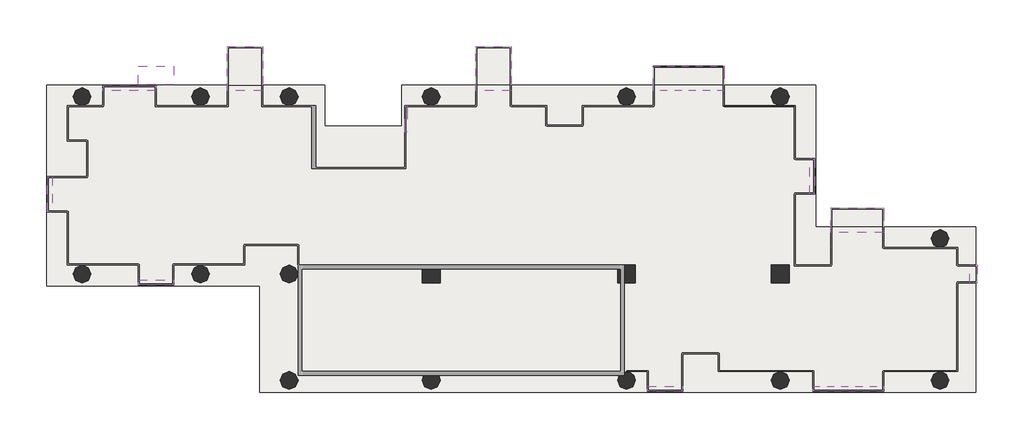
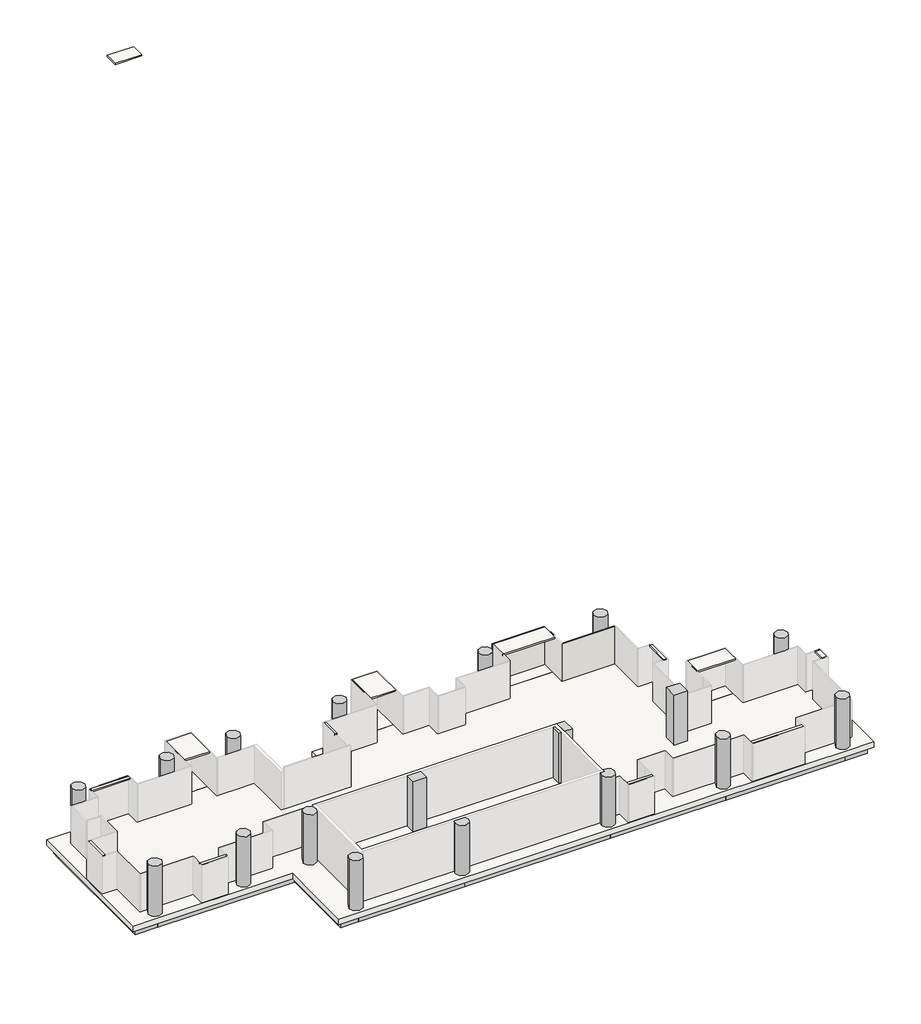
# One storey, part 2 of 2: 40 slabs, 25 beams, 18 columns, 2 walls.
"""IFC4 building model written with IfcOpenShell, lengths in millimetres."""

from ifc_helpers import new_model, si_unit, point, frame, frame_2d, origin, place, context, project, spatial, polyline, circle_curve, trimmed, segment, composite_curve, outline, extrude, faceted_brep, transform, mapped, element, save
from ifc_brep_helpers import plane_surface, cylinder_surface, advanced_brep
from components import ajn_arc_ossature_rec_ba_700x600_5242ffbb, ajn_arc_ossature_rec_ba_700x600_213c05e2, ajn_arc_ossature_rec_ba_700x600_4d623bda, ajn_arc_ossature_rec_ba_700x600_c2a8f1af, ajn_arc_ossature_rec_ba_700x600_b2f97811, ajn_arc_ossature_rec_ba_700x600_e688680c, ajn_arc_ossature_rec_ba_700x600_8adee879, ajn_arc_ossature_rec_ba_700x600_6677e51c, ajn_arc_ossature_rec_ba_700x600_60e35d56, ajn_arc_ossature_rec_ba_700x600_9ae0f913, ajn_arc_ossature_rec_ba_700x600_5c14351b, ajn_arc_ossature_rec_ba_700x600_e883967f, ajn_arc_ossature_rec_ba_700x600_0984b03c, ajn_arc_ossature_rec_ba_700x600_78f846f2, ajn_arc_ossature_rec_ba_700x600_e869caa8, ajn_arc_ossature_rec_ba_700x600_ab13cff5, ajn_arc_ossature_rec_ba_700x600_cb3e513f, ajn_arc_ossature_rec_ba_700x600_0388eb48, ajn_arc_ossature_rec_ba_700x600_e143517c

model = new_model("IFC4")

# Units and contexts
model_context = context("Model", 3, world=origin())
ifc_project = project(units=[si_unit("LENGTHUNIT", "METRE", prefix="MILLI")], contexts=[model_context])

# Site, building, storey
site = spatial("IfcSite", under=ifc_project)
building = spatial("IfcBuilding", under=site)
storey = spatial("IfcBuildingStorey", under=building, Name="TW-L 03", Elevation=9999.9999686)

# Beams
placement = place(None, origin())
ajn_arc_ossature_rec_ba_700x600_shape = ajn_arc_ossature_rec_ba_700x600_5242ffbb(model_context)
element("IfcBeam", 1, ObjectType="AJN-ARC-OSSATURE REC-BA : 700x600", at=placement, inside=storey, context=model_context, shape_type="MappedRepresentation", body=[
    mapped(ajn_arc_ossature_rec_ba_700x600_shape, transform((119350.0, 39300.0, 9449.9999686), x_axis=(-1.0, 0.0, 0.0), y_axis=(0.0, -1.0, 0.0), z_axis=(0.0, 0.0, 1.0))),
])
ajn_arc_ossature_rec_ba_700x600_2_shape = ajn_arc_ossature_rec_ba_700x600_213c05e2(model_context)
element("IfcBeam", 2, ObjectType="AJN-ARC-OSSATURE REC-BA : 700x600", at=placement, inside=storey, context=model_context, shape_type="MappedRepresentation", body=[
    mapped(ajn_arc_ossature_rec_ba_700x600_2_shape, transform((100900.0, 34800.0, 9449.9999686), x_axis=(0.0, -1.0, 0.0), y_axis=(1.0, 0.0, 0.0), z_axis=(0.0, 0.0, 1.0))),
])
ajn_arc_ossature_rec_ba_700x600_3_shape = ajn_arc_ossature_rec_ba_700x600_4d623bda(model_context)
element("IfcBeam", 3, ObjectType="AJN-ARC-OSSATURE REC-BA : 700x600", at=placement, inside=storey, context=model_context, shape_type="MappedRepresentation", body=[
    mapped(ajn_arc_ossature_rec_ba_700x600_3_shape, transform((112150.0, 24900.0, 9449.9999686), x_axis=(1.0, 0.0, 0.0), y_axis=(0.0, 1.0, 0.0), z_axis=(0.0, 0.0, 1.0))),
])
ajn_arc_ossature_rec_ba_700x600_4_shape = ajn_arc_ossature_rec_ba_700x600_c2a8f1af(model_context)
element("IfcBeam", 4, ObjectType="AJN-ARC-OSSATURE REC-BA : 700x600", at=placement, inside=storey, context=model_context, shape_type="MappedRepresentation", body=[
    mapped(ajn_arc_ossature_rec_ba_700x600_4_shape, transform((116200.0, 24900.0, 9449.9999686), x_axis=(1.0, 0.0, 0.0), y_axis=(0.0, 1.0, 0.0), z_axis=(0.0, 0.0, 1.0))),
])
ajn_arc_ossature_rec_ba_700x600_5_shape = ajn_arc_ossature_rec_ba_700x600_b2f97811(model_context)
element("IfcBeam", 5, ObjectType="AJN-ARC-OSSATURE REC-BA : 700x600", at=placement, inside=storey, context=model_context, shape_type="MappedRepresentation", body=[
    mapped(ajn_arc_ossature_rec_ba_700x600_5_shape, transform((106900.0, 30300.0, 9449.9999686), x_axis=(1.0, 0.0, 0.0), y_axis=(0.0, 1.0, 0.0), z_axis=(0.0, 0.0, 1.0))),
])
ajn_arc_ossature_rec_ba_700x600_6_shape = ajn_arc_ossature_rec_ba_700x600_e688680c(model_context)
element("IfcBeam", 6, ObjectType="AJN-ARC-OSSATURE REC-BA : 700x600", at=placement, inside=storey, context=model_context, shape_type="MappedRepresentation", body=[
    mapped(ajn_arc_ossature_rec_ba_700x600_6_shape, transform((111700.0, 27600.0, 9449.9999686), x_axis=(0.0, -1.0, 0.0), y_axis=(1.0, 0.0, 0.0), z_axis=(0.0, 0.0, 1.0))),
])
ajn_arc_ossature_rec_ba_700x600_7_shape = ajn_arc_ossature_rec_ba_700x600_8adee879(model_context)
element("IfcBeam", 7, ObjectType="AJN-ARC-OSSATURE REC-BA : 700x600", at=placement, inside=storey, context=model_context, shape_type="MappedRepresentation", body=[
    mapped(ajn_arc_ossature_rec_ba_700x600_7_shape, transform((124750.0, 24900.0, 9449.9999686), x_axis=(1.0, 0.0, 0.0), y_axis=(0.0, 1.0, 0.0), z_axis=(0.0, 0.0, 1.0))),
])
element("IfcBeam", 8, ObjectType="AJN-ARC-OSSATURE REC-BA : 700x600", at=placement, inside=storey, context=model_context, shape_type="MappedRepresentation", body=[
    mapped(ajn_arc_ossature_rec_ba_700x600_7_shape, transform((124750.0, 39300.0, 9449.9999686), x_axis=(-1.0, 0.0, 0.0), y_axis=(0.0, -1.0, 0.0), z_axis=(0.0, 0.0, 1.0))),
])
ajn_arc_ossature_rec_ba_700x600_8_shape = ajn_arc_ossature_rec_ba_700x600_6677e51c(model_context)
element("IfcBeam", 9, ObjectType="AJN-ARC-OSSATURE REC-BA : 700x600", at=placement, inside=storey, context=model_context, shape_type="MappedRepresentation", body=[
    mapped(ajn_arc_ossature_rec_ba_700x600_8_shape, transform((133600.0, 24900.0, 9449.9999686), x_axis=(1.0, 0.0, 0.0), y_axis=(0.0, 1.0, 0.0), z_axis=(0.0, 0.0, 1.0))),
])
ajn_arc_ossature_rec_ba_700x600_9_shape = ajn_arc_ossature_rec_ba_700x600_60e35d56(model_context)
element("IfcBeam", 10, ObjectType="AJN-ARC-OSSATURE REC-BA : 700x600", at=placement, inside=storey, context=model_context, shape_type="MappedRepresentation", body=[
    mapped(ajn_arc_ossature_rec_ba_700x600_9_shape, transform((141550.0, 24900.0, 9449.9999686), x_axis=(1.0, 0.0, 0.0), y_axis=(0.0, 1.0, 0.0), z_axis=(0.0, 0.0, 1.0))),
])
ajn_arc_ossature_rec_ba_700x600_10_shape = ajn_arc_ossature_rec_ba_700x600_9ae0f913(model_context)
element("IfcBeam", 11, ObjectType="AJN-ARC-OSSATURE REC-BA : 700x600", at=placement, inside=storey, context=model_context, shape_type="MappedRepresentation", body=[
    mapped(ajn_arc_ossature_rec_ba_700x600_10_shape, transform((146200.0, 24900.0, 9449.9999686), x_axis=(1.0, 0.0, 0.0), y_axis=(0.0, 1.0, 0.0), z_axis=(0.0, 0.0, 1.0))),
])
element("IfcBeam", 12, ObjectType="AJN-ARC-OSSATURE REC-BA : 700x600", at=placement, inside=storey, context=model_context, shape_type="MappedRepresentation", body=[
    mapped(ajn_arc_ossature_rec_ba_700x600_10_shape, transform((101500.0, 39300.0, 9449.9999686), x_axis=(-1.0, 0.0, 0.0), y_axis=(0.0, -1.0, 0.0), z_axis=(0.0, 0.0, 1.0))),
])
ajn_arc_ossature_rec_ba_700x600_11_shape = ajn_arc_ossature_rec_ba_700x600_5c14351b(model_context)
element("IfcBeam", 13, ObjectType="AJN-ARC-OSSATURE REC-BA : 700x600", at=placement, inside=storey, context=model_context, shape_type="MappedRepresentation", body=[
    mapped(ajn_arc_ossature_rec_ba_700x600_11_shape, transform((146800.0, 28500.0, 9449.9999686), x_axis=(0.0, 1.0, 0.0), y_axis=(-1.0, 0.0, 0.0), z_axis=(0.0, 0.0, 1.0))),
])
element("IfcBeam", 14, ObjectType="AJN-ARC-OSSATURE REC-BA : 700x600", at=placement, inside=storey, context=model_context, shape_type="MappedRepresentation", body=[
    mapped(ajn_arc_ossature_rec_ba_700x600_11_shape, transform((138700.0, 35700.0, 9449.9999686), x_axis=(0.0, 1.0, 0.0), y_axis=(-1.0, 0.0, 0.0), z_axis=(0.0, 0.0, 1.0))),
])
ajn_arc_ossature_rec_ba_700x600_12_shape = ajn_arc_ossature_rec_ba_700x600_e883967f(model_context)
element("IfcBeam", 15, ObjectType="AJN-ARC-OSSATURE REC-BA : 700x600", at=placement, inside=storey, context=model_context, shape_type="MappedRepresentation", body=[
    mapped(ajn_arc_ossature_rec_ba_700x600_12_shape, transform((146200.0, 32100.0, 9449.9999686), x_axis=(-1.0, 0.0, 0.0), y_axis=(0.0, -1.0, 0.0), z_axis=(0.0, 0.0, 1.0))),
])
element("IfcBeam", 16, ObjectType="AJN-ARC-OSSATURE REC-BA : 700x600", at=placement, inside=storey, context=model_context, shape_type="MappedRepresentation", body=[
    mapped(ajn_arc_ossature_rec_ba_700x600_12_shape, transform((138100.0, 39300.0, 9449.9999686), x_axis=(-1.0, 0.0, 0.0), y_axis=(0.0, -1.0, 0.0), z_axis=(0.0, 0.0, 1.0))),
])
element("IfcBeam", 17, ObjectType="AJN-ARC-OSSATURE REC-BA : 700x600", at=placement, inside=storey, context=model_context, shape_type="MappedRepresentation", body=[
    mapped(ajn_arc_ossature_rec_ba_700x600_12_shape, transform((113200.0, 39300.0, 9449.9999686), x_axis=(-1.0, 0.0, 0.0), y_axis=(0.0, -1.0, 0.0), z_axis=(0.0, 0.0, 1.0))),
])
element("IfcBeam", 18, ObjectType="AJN-ARC-OSSATURE REC-BA : 700x600", at=placement, inside=storey, context=model_context, shape_type="MappedRepresentation", body=[
    mapped(ajn_arc_ossature_rec_ba_700x600_12_shape, transform((101500.0, 30300.0, 9449.9999686), x_axis=(1.0, 0.0, 0.0), y_axis=(0.0, 1.0, 0.0), z_axis=(0.0, 0.0, 1.0))),
])
ajn_arc_ossature_rec_ba_700x600_13_shape = ajn_arc_ossature_rec_ba_700x600_0984b03c(model_context)
element("IfcBeam", 19, ObjectType="AJN-ARC-OSSATURE REC-BA : 700x600", at=placement, inside=storey, context=model_context, shape_type="MappedRepresentation", body=[
    mapped(ajn_arc_ossature_rec_ba_700x600_13_shape, transform((142150.0, 32100.0, 9449.9999686), x_axis=(-1.0, 0.0, 0.0), y_axis=(0.0, -1.0, 0.0), z_axis=(0.0, 0.0, 1.0))),
])
ajn_arc_ossature_rec_ba_700x600_14_shape = ajn_arc_ossature_rec_ba_700x600_78f846f2(model_context)
element("IfcBeam", 20, ObjectType="AJN-ARC-OSSATURE REC-BA : 700x600", at=placement, inside=storey, context=model_context, shape_type="MappedRepresentation", body=[
    mapped(ajn_arc_ossature_rec_ba_700x600_14_shape, transform((133600.0, 39300.0, 9449.9999686), x_axis=(-1.0, 0.0, 0.0), y_axis=(0.0, -1.0, 0.0), z_axis=(0.0, 0.0, 1.0))),
])
ajn_arc_ossature_rec_ba_700x600_15_shape = ajn_arc_ossature_rec_ba_700x600_e869caa8(model_context)
element("IfcBeam", 21, ObjectType="AJN-ARC-OSSATURE REC-BA : 700x600", at=placement, inside=storey, context=model_context, shape_type="MappedRepresentation", body=[
    mapped(ajn_arc_ossature_rec_ba_700x600_15_shape, transform((118900.0, 38250.0, 9449.9999686), x_axis=(0.0, -1.0, 0.0), y_axis=(1.0, 0.0, 0.0), z_axis=(0.0, 0.0, 1.0))),
])
ajn_arc_ossature_rec_ba_700x600_16_shape = ajn_arc_ossature_rec_ba_700x600_ab13cff5(model_context)
element("IfcBeam", 22, ObjectType="AJN-ARC-OSSATURE REC-BA : 700x600", at=placement, inside=storey, context=model_context, shape_type="MappedRepresentation", body=[
    mapped(ajn_arc_ossature_rec_ba_700x600_16_shape, transform((116350.0, 37200.0, 9449.9999686), x_axis=(-1.0, 0.0, 0.0), y_axis=(0.0, -1.0, 0.0), z_axis=(0.0, 0.0, 1.0))),
])
ajn_arc_ossature_rec_ba_700x600_17_shape = ajn_arc_ossature_rec_ba_700x600_cb3e513f(model_context)
element("IfcBeam", 23, ObjectType="AJN-ARC-OSSATURE REC-BA : 700x600", at=placement, inside=storey, context=model_context, shape_type="MappedRepresentation", body=[
    mapped(ajn_arc_ossature_rec_ba_700x600_17_shape, transform((113800.0, 38250.0, 9449.9999686), x_axis=(0.0, 1.0, 0.0), y_axis=(-1.0, 0.0, 0.0), z_axis=(0.0, 0.0, 1.0))),
])
ajn_arc_ossature_rec_ba_700x600_18_shape = ajn_arc_ossature_rec_ba_700x600_0388eb48(model_context)
element("IfcBeam", 24, ObjectType="AJN-ARC-OSSATURE REC-BA : 700x600", at=placement, inside=storey, context=model_context, shape_type="MappedRepresentation", body=[
    mapped(ajn_arc_ossature_rec_ba_700x600_18_shape, transform((110350.0, 39300.0, 9449.9999686), x_axis=(-1.0, 0.0, 0.0), y_axis=(0.0, -1.0, 0.0), z_axis=(0.0, 0.0, 1.0))),
])
ajn_arc_ossature_rec_ba_700x600_19_shape = ajn_arc_ossature_rec_ba_700x600_e143517c(model_context)
element("IfcBeam", 25, ObjectType="AJN-ARC-OSSATURE REC-BA : 700x600", at=placement, inside=storey, context=model_context, shape_type="MappedRepresentation", body=[
    mapped(ajn_arc_ossature_rec_ba_700x600_19_shape, transform((105100.0, 39300.0, 9449.9999686), x_axis=(-1.0, 0.0, 0.0), y_axis=(0.0, -1.0, 0.0), z_axis=(0.0, 0.0, 1.0))),
])

# Columns
element("IfcColumn", 26, ObjectType="AJN-ARC-POTEAU CIRCULAIRE : ø90", at=placement, inside=storey, context=model_context, shape_type="SweptSolid", body=[
    extrude(outline(composite_curve([segment(trimmed(circle_curve(frame_2d((102100.0, 39300.0)), 450.0), [point((101650.0, 39300.0))], [point((102550.0, 39300.0))], False, "CARTESIAN"), True, "CONTINUOUS"), segment(trimmed(circle_curve(frame_2d((102100.0, 39300.0)), 450.0), [point((102550.0, 39300.0))], [point((101650.0, 39300.0))], False, "CARTESIAN"), True, "CONTINUOUS")], self_intersect=False)), frame((0.0, 0.0, 9999.9999686), z_axis=(0.0, 0.0, 1.0), x_axis=(1.0, 0.0, 0.0)), (0.0, 0.0, 1.0), 3600.0),
])
element("IfcColumn", 27, ObjectType="AJN-ARC-POTEAU CIRCULAIRE : ø90", at=placement, inside=storey, context=model_context, shape_type="SweptSolid", body=[
    extrude(outline(composite_curve([segment(trimmed(circle_curve(frame_2d((102100.0, 30300.0)), 450.0), [point((101650.0, 30300.0))], [point((102550.0, 30300.0))], False, "CARTESIAN"), True, "CONTINUOUS"), segment(trimmed(circle_curve(frame_2d((102100.0, 30300.0)), 450.0), [point((102550.0, 30300.0))], [point((101650.0, 30300.0))], False, "CARTESIAN"), True, "CONTINUOUS")], self_intersect=False)), frame((0.0, 0.0, 9999.9999686), z_axis=(0.0, 0.0, 1.0), x_axis=(1.0, 0.0, 0.0)), (0.0, 0.0, 1.0), 3600.0),
])
element("IfcColumn", 28, ObjectType="AJN-ARC-POTEAU CIRCULAIRE : ø90", at=placement, inside=storey, context=model_context, shape_type="SweptSolid", body=[
    extrude(outline(composite_curve([segment(trimmed(circle_curve(frame_2d((108100.0, 30300.0)), 450.0), [point((107650.0, 30300.0))], [point((108550.0, 30300.0))], False, "CARTESIAN"), True, "CONTINUOUS"), segment(trimmed(circle_curve(frame_2d((108100.0, 30300.0)), 450.0), [point((108550.0, 30300.0))], [point((107650.0, 30300.0))], False, "CARTESIAN"), True, "CONTINUOUS")], self_intersect=False)), frame((0.0, 0.0, 9999.9999686), z_axis=(0.0, 0.0, 1.0), x_axis=(1.0, 0.0, 0.0)), (0.0, 0.0, 1.0), 3600.0),
])
element("IfcColumn", 29, ObjectType="AJN-ARC-POTEAU CIRCULAIRE : ø90", at=placement, inside=storey, context=model_context, shape_type="SweptSolid", body=[
    extrude(outline(composite_curve([segment(trimmed(circle_curve(frame_2d((108100.0, 39300.0)), 450.0), [point((107650.0, 39300.0))], [point((108550.0, 39300.0))], False, "CARTESIAN"), True, "CONTINUOUS"), segment(trimmed(circle_curve(frame_2d((108100.0, 39300.0)), 450.0), [point((108550.0, 39300.0))], [point((107650.0, 39300.0))], False, "CARTESIAN"), True, "CONTINUOUS")], self_intersect=False)), frame((0.0, 0.0, 9999.9999686), z_axis=(0.0, 0.0, 1.0), x_axis=(1.0, 0.0, 0.0)), (0.0, 0.0, 1.0), 3600.0),
])
element("IfcColumn", 30, ObjectType="AJN-ARC-POTEAU CIRCULAIRE : ø90", at=placement, inside=storey, context=model_context, shape_type="SweptSolid", body=[
    extrude(outline(composite_curve([segment(trimmed(circle_curve(frame_2d((112600.0, 39300.0)), 450.0), [point((112150.0, 39300.0))], [point((113050.0, 39300.0))], False, "CARTESIAN"), True, "CONTINUOUS"), segment(trimmed(circle_curve(frame_2d((112600.0, 39300.0)), 450.0), [point((113050.0, 39300.0))], [point((112150.0, 39300.0))], False, "CARTESIAN"), True, "CONTINUOUS")], self_intersect=False)), frame((0.0, 0.0, 9999.9999686), z_axis=(0.0, 0.0, 1.0), x_axis=(1.0, 0.0, 0.0)), (0.0, 0.0, 1.0), 3600.0),
])
element("IfcColumn", 31, ObjectType="AJN-ARC-POTEAU CIRCULAIRE : ø90", at=placement, inside=storey, context=model_context, shape_type="SweptSolid", body=[
    extrude(outline(composite_curve([segment(trimmed(circle_curve(frame_2d((112600.0, 30300.0)), 450.0), [point((112150.0, 30300.0))], [point((113050.0, 30300.0))], False, "CARTESIAN"), True, "CONTINUOUS"), segment(trimmed(circle_curve(frame_2d((112600.0, 30300.0)), 450.0), [point((113050.0, 30300.0))], [point((112150.0, 30300.0))], False, "CARTESIAN"), True, "CONTINUOUS")], self_intersect=False)), frame((0.0, 0.0, 9999.9999686), z_axis=(0.0, 0.0, 1.0), x_axis=(1.0, 0.0, 0.0)), (0.0, 0.0, 1.0), 3600.0),
])
element("IfcColumn", 32, ObjectType="AJN-ARC-POTEAU CIRCULAIRE : ø90", at=placement, inside=storey, context=model_context, shape_type="SweptSolid", body=[
    extrude(outline(composite_curve([segment(trimmed(circle_curve(frame_2d((112600.0, 24900.0)), 450.0), [point((112150.0, 24900.0))], [point((113050.0, 24900.0))], False, "CARTESIAN"), True, "CONTINUOUS"), segment(trimmed(circle_curve(frame_2d((112600.0, 24900.0)), 450.0), [point((113050.0, 24900.0))], [point((112150.0, 24900.0))], False, "CARTESIAN"), True, "CONTINUOUS")], self_intersect=False)), frame((0.0, 0.0, 9999.9999686), z_axis=(0.0, 0.0, 1.0), x_axis=(1.0, 0.0, 0.0)), (0.0, 0.0, 1.0), 3600.0),
])
element("IfcColumn", 33, ObjectType="AJN-ARC-POTEAU CIRCULAIRE : ø90", at=placement, inside=storey, context=model_context, shape_type="SweptSolid", body=[
    extrude(outline(composite_curve([segment(trimmed(circle_curve(frame_2d((119800.0, 24900.0)), 450.0), [point((120250.0, 24900.0))], [point((119350.0, 24900.0))], False, "CARTESIAN"), True, "CONTINUOUS"), segment(trimmed(circle_curve(frame_2d((119800.0, 24900.0)), 450.0), [point((119350.0, 24900.0))], [point((119425.8342613, 25150.0))], False, "CARTESIAN"), True, "CONTINUOUS"), segment(polyline([(119425.8342613, 25150.0), (120174.1657387, 25150.0)]), True, "CONTINUOUS"), segment(trimmed(circle_curve(frame_2d((119800.0, 24900.0)), 450.0), [point((120174.1657387, 25150.0))], [point((120250.0, 24900.0))], False, "CARTESIAN"), True, "CONTINUOUS")], self_intersect=False)), frame((0.0, 0.0, 9999.9999686), z_axis=(0.0, 0.0, 1.0), x_axis=(1.0, 0.0, 0.0)), (0.0, 0.0, 1.0), 3600.0),
])
element("IfcColumn", 34, ObjectType="AJN-ARC-POTEAU CIRCULAIRE : ø90", at=placement, inside=storey, context=model_context, shape_type="SweptSolid", body=[
    extrude(outline(composite_curve([segment(trimmed(circle_curve(frame_2d((119800.0, 39300.0)), 450.0), [point((119350.0, 39300.0))], [point((120250.0, 39300.0))], False, "CARTESIAN"), True, "CONTINUOUS"), segment(trimmed(circle_curve(frame_2d((119800.0, 39300.0)), 450.0), [point((120250.0, 39300.0))], [point((119350.0, 39300.0))], False, "CARTESIAN"), True, "CONTINUOUS")], self_intersect=False)), frame((0.0, 0.0, 9999.9999686), z_axis=(0.0, 0.0, 1.0), x_axis=(1.0, 0.0, 0.0)), (0.0, 0.0, 1.0), 3600.0),
])
element("IfcColumn", 35, ObjectType="AJN-ARC-POTEAU CIRCULAIRE : ø90", at=placement, inside=storey, context=model_context, shape_type="SweptSolid", body=[
    extrude(outline(composite_curve([segment(trimmed(circle_curve(frame_2d((129700.0, 39300.0)), 450.0), [point((129250.0, 39300.0))], [point((130150.0, 39300.0))], False, "CARTESIAN"), True, "CONTINUOUS"), segment(trimmed(circle_curve(frame_2d((129700.0, 39300.0)), 450.0), [point((130150.0, 39300.0))], [point((129250.0, 39300.0))], False, "CARTESIAN"), True, "CONTINUOUS")], self_intersect=False)), frame((0.0, 0.0, 9999.9999686), z_axis=(0.0, 0.0, 1.0), x_axis=(1.0, 0.0, 0.0)), (0.0, 0.0, 1.0), 3600.0),
])
element("IfcColumn", 36, ObjectType="AJN-ARC-POTEAU CIRCULAIRE : ø90", at=placement, inside=storey, context=model_context, shape_type="SweptSolid", body=[
    extrude(outline(composite_curve([segment(trimmed(circle_curve(frame_2d((129700.0, 24900.0)), 450.0), [point((130150.0, 24900.0))], [point((129250.0, 24900.0))], False, "CARTESIAN"), True, "CONTINUOUS"), segment(trimmed(circle_curve(frame_2d((129700.0, 24900.0)), 450.0), [point((129250.0, 24900.0))], [point((129325.8342613, 25150.0))], False, "CARTESIAN"), True, "CONTINUOUS"), segment(polyline([(129325.8342613, 25150.0), (129600.0, 25150.0), (129600.0, 25338.7482194)]), True, "CONTINUOUS"), segment(trimmed(circle_curve(frame_2d((129700.0, 24900.0)), 450.0), [point((129600.0, 25338.7482194))], [point((130150.0, 24900.0))], False, "CARTESIAN"), True, "CONTINUOUS")], self_intersect=False)), frame((0.0, 0.0, 9999.9999686), z_axis=(0.0, 0.0, 1.0), x_axis=(1.0, 0.0, 0.0)), (0.0, 0.0, 1.0), 3600.0),
])
element("IfcColumn", 37, ObjectType="AJN-ARC-POTEAU CIRCULAIRE : ø90", at=placement, inside=storey, context=model_context, shape_type="SweptSolid", body=[
    extrude(outline(composite_curve([segment(trimmed(circle_curve(frame_2d((137500.0, 39300.0)), 450.0), [point((137050.0, 39300.0))], [point((137950.0, 39300.0))], False, "CARTESIAN"), True, "CONTINUOUS"), segment(trimmed(circle_curve(frame_2d((137500.0, 39300.0)), 450.0), [point((137950.0, 39300.0))], [point((137050.0, 39300.0))], False, "CARTESIAN"), True, "CONTINUOUS")], self_intersect=False)), frame((0.0, 0.0, 9999.9999686), z_axis=(0.0, 0.0, 1.0), x_axis=(1.0, 0.0, 0.0)), (0.0, 0.0, 1.0), 3600.0),
])
element("IfcColumn", 38, ObjectType="AJN-ARC-POTEAU CIRCULAIRE : ø90", at=placement, inside=storey, context=model_context, shape_type="SweptSolid", body=[
    extrude(outline(composite_curve([segment(trimmed(circle_curve(frame_2d((137500.0, 24900.0)), 450.0), [point((137050.0, 24900.0))], [point((137950.0, 24900.0))], False, "CARTESIAN"), True, "CONTINUOUS"), segment(trimmed(circle_curve(frame_2d((137500.0, 24900.0)), 450.0), [point((137950.0, 24900.0))], [point((137050.0, 24900.0))], False, "CARTESIAN"), True, "CONTINUOUS")], self_intersect=False)), frame((0.0, 0.0, 9999.9999686), z_axis=(0.0, 0.0, 1.0), x_axis=(1.0, 0.0, 0.0)), (0.0, 0.0, 1.0), 3600.0),
])
element("IfcColumn", 39, ObjectType="AJN-ARC-POTEAU CIRCULAIRE : ø90", at=placement, inside=storey, context=model_context, shape_type="SweptSolid", body=[
    extrude(outline(composite_curve([segment(trimmed(circle_curve(frame_2d((145600.0, 24900.0)), 450.0), [point((145150.0, 24900.0))], [point((146050.0, 24900.0))], False, "CARTESIAN"), True, "CONTINUOUS"), segment(trimmed(circle_curve(frame_2d((145600.0, 24900.0)), 450.0), [point((146050.0, 24900.0))], [point((145150.0, 24900.0))], False, "CARTESIAN"), True, "CONTINUOUS")], self_intersect=False)), frame((0.0, 0.0, 9999.9999686), z_axis=(0.0, 0.0, 1.0), x_axis=(1.0, 0.0, 0.0)), (0.0, 0.0, 1.0), 3600.0),
])
element("IfcColumn", 40, ObjectType="AJN-ARC-POTEAU CIRCULAIRE : ø90", at=placement, inside=storey, context=model_context, shape_type="AdvancedBrep", body=[
    advanced_brep(
    [(145150.0, 32100.0, 9999.9999686), (146050.0, 32100.0, 9999.9999686), (145638.6089983, 31651.6593424, 9999.9999686), (145561.3910017, 31651.6593424, 9999.9999686), (145150.0, 32100.0, 13599.9999686), (146050.0, 32100.0, 13599.9999686), (145561.3910017, 31651.6593424, 12699.9999686), (145638.6089983, 31651.6593424, 12699.9999686)],
    [
        (0, 1, circle_curve(frame((145600.0, 32100.0, 9999.9999686), z_axis=(0.0, 0.0, -1.0), x_axis=(1.0, 0.0, 0.0)), 450.0)),
        (1, 2, circle_curve(frame((145600.0, 32100.0, 9999.9999686), z_axis=(0.0, 0.0, -1.0), x_axis=(1.0, 0.0, 0.0)), 450.0)),
        (2, 3),
        (3, 0, circle_curve(frame((145600.0, 32100.0, 9999.9999686), z_axis=(0.0, 0.0, -1.0), x_axis=(1.0, 0.0, 0.0)), 450.0)),
        (0, 4),
        (4, 5, circle_curve(frame((145600.0, 32100.0, 13599.9999686), z_axis=(0.0, 0.0, -1.0), x_axis=(1.0, 0.0, 0.0)), 450.0)),
        (5, 1),
        (5, 4, circle_curve(frame((145600.0, 32100.0, 13599.9999686), z_axis=(0.0, 0.0, -1.0), x_axis=(1.0, 0.0, 0.0)), 450.0)),
        (3, 6),
        (6, 7, circle_curve(frame((145600.0, 32100.0, 12699.9999686), z_axis=(0.0, 0.0, 1.0), x_axis=(1.0, 0.0, 0.0)), 450.0)),
        (7, 2),
        (7, 6),
    ],
    [
        plane_surface(frame((146050.0, 32100.0, 9999.9999686), z_axis=(0.0, 0.0, -1.0), x_axis=(0.0, -1.0, 0.0))),
        cylinder_surface(frame((145600.0, 32100.0, 9999.9999686), z_axis=(0.0, 0.0, 1.0), x_axis=(1.0, 0.0, 0.0)), 450.0),
        plane_surface(frame((146050.0, 32100.0, 13599.9999686), z_axis=(0.0, 0.0, 1.0), x_axis=(0.0, 1.0, 0.0))),
        plane_surface(frame((146472.681474, 31651.6593424, 9999.9999686), z_axis=(0.0, -1.0, 0.0), x_axis=(-1.0, 0.0, 0.0))),
        plane_surface(frame((142750.0, 31651.6593424, 12699.9999686), z_axis=(0.0, 0.0, -1.0), x_axis=(0.0, -1.0, 0.0))),
    ],
    [
        (0, [[1, 2, 3, 4]]),
        (1, [[-1, 5, 6, 7]]),
        (1, [[-7, 8, -5, -4, 9, 10, 11, -2]]),
        (2, [[-6, -8]]),
        (3, [[12, -9, -3, -11]]),
        (4, [[-12, -10]]),
    ],
),
])
element("IfcColumn", 41, ObjectType="AJN-ARC-POTEAU RECTANGULAIRE : 900 mm x 900 mm", at=placement, inside=storey, context=model_context, shape_type="SweptSolid", body=[
    extrude(outline(polyline([(137950.0, 30750.0), (137950.0, 29850.0), (137050.0, 29850.0), (137050.0, 30750.0), (137950.0, 30750.0)])), frame((0.0, 0.0, 9999.9999686), z_axis=(0.0, 0.0, 1.0), x_axis=(1.0, 0.0, 0.0)), (0.0, 0.0, 1.0), 3600.0),
])
element("IfcColumn", 42, ObjectType="AJN-ARC-POTEAU RECTANGULAIRE : 900 mm x 900 mm", at=placement, inside=storey, context=model_context, shape_type="SweptSolid", body=[
    extrude(outline(polyline([(129400.0, 29850.0), (129250.0, 29850.0), (129250.0, 30550.0), (129400.0, 30550.0), (129400.0, 29850.0)])), frame((0.0, 0.0, 9999.9999686), z_axis=(0.0, 0.0, 1.0), x_axis=(1.0, 0.0, 0.0)), (0.0, 0.0, 1.0), 3600.0),
    extrude(outline(polyline([(130150.0, 30750.0), (130150.0, 29850.0), (129600.0, 29850.0), (129600.0, 30750.0), (130150.0, 30750.0)])), frame((0.0, 0.0, 9999.9999686), z_axis=(0.0, 0.0, 1.0), x_axis=(1.0, 0.0, 0.0)), (0.0, 0.0, 1.0), 3600.0),
])
element("IfcColumn", 43, ObjectType="AJN-ARC-POTEAU RECTANGULAIRE : 900 mm x 900 mm", at=placement, inside=storey, context=model_context, shape_type="SweptSolid", body=[
    extrude(outline(polyline([(120250.0, 29850.0), (119350.0, 29850.0), (119350.0, 30550.0), (120250.0, 30550.0), (120250.0, 29850.0)])), frame((0.0, 0.0, 9999.9999686), z_axis=(0.0, 0.0, 1.0), x_axis=(1.0, 0.0, 0.0)), (0.0, 0.0, 1.0), 3600.0),
])

# Slabs
element("IfcSlab", 44, ObjectType="AJN-ARC-SLAB-10cm", at=placement, inside=storey, context=model_context, shape_type="SweptSolid", body=[
    extrude(outline(polyline([(123862.058986, 39900.0), (122062.058986, 39900.0), (122062.058986, 41850.0), (123862.058986, 41850.0), (123862.058986, 39900.0)])), frame((0.0, 0.0, 9899.9999686), z_axis=(0.0, 0.0, 1.0), x_axis=(1.0, 0.0, 0.0)), (0.0, 0.0, 1.0), 100.0),
])
element("IfcSlab", 45, ObjectType="AJN-ARC-SLAB-10cm", at=placement, inside=storey, context=model_context, shape_type="SweptSolid", body=[
    extrude(outline(polyline([(147497.681474, 29851.8314633), (147400.0, 29851.8314633), (147400.0, 30751.8314633), (147497.681474, 30751.8314633), (147497.681474, 29851.8314633)])), frame((0.0, 0.0, 9899.9999686), z_axis=(0.0, 0.0, 1.0), x_axis=(1.0, 0.0, 0.0)), (0.0, 0.0, 1.0), 100.0),
])
element("IfcSlab", 46, ObjectType="AJN-ARC-SLAB-10cm", at=placement, inside=storey, context=model_context, shape_type="SweptSolid", body=[
    extrude(outline(polyline([(111250.0, 39900.0), (109450.0, 39900.0), (109450.0, 41850.0), (111250.0, 41850.0), (111250.0, 39900.0)])), frame((0.0, 0.0, 9899.9999686), z_axis=(0.0, 0.0, 1.0), x_axis=(1.0, 0.0, 0.0)), (0.0, 0.0, 1.0), 100.0),
])
element("IfcSlab", 47, ObjectType="AJN-ARC-SLAB-10cm", at=placement, inside=storey, context=model_context, shape_type="SweptSolid", body=[
    extrude(outline(polyline([(142750.0, 32700.0), (140050.0, 32700.0), (140050.0, 33651.6593424), (142750.0, 33651.6593424), (142750.0, 32700.0)])), frame((0.0, 0.0, 9899.9999686), z_axis=(0.0, 0.0, 1.0), x_axis=(1.0, 0.0, 0.0)), (0.0, 0.0, 1.0), 100.0),
])
element("IfcSlab", 48, ObjectType="AJN-ARC-SLAB-10cm", at=placement, inside=storey, context=model_context, shape_type="SweptSolid", body=[
    extrude(outline(polyline([(134658.039324, 39900.0), (131058.039324, 39900.0), (131058.039324, 40850.0), (134658.039324, 40850.0), (134658.039324, 39900.0)])), frame((0.0, 0.0, 9899.9999686), z_axis=(0.0, 0.0, 1.0), x_axis=(1.0, 0.0, 0.0)), (0.0, 0.0, 1.0), 100.0),
])
element("IfcSlab", 49, ObjectType="AJN-ARC-SLAB-10cm", at=placement, inside=storey, context=model_context, shape_type="SweptSolid", body=[
    extrude(outline(polyline([(134658.039324, 39900.0), (131058.039324, 39900.0), (131058.039324, 40850.0), (134658.039324, 40850.0), (134658.039324, 39900.0)])), frame((0.0, 0.0, 9899.9999686), z_axis=(0.0, 0.0, 1.0), x_axis=(1.0, 0.0, 0.0)), (0.0, 0.0, 1.0), 100.0),
])
element("IfcSlab", 50, ObjectType="AJN-ARC-SLAB-10cm", at=placement, inside=storey, context=model_context, shape_type="SweptSolid", body=[
    extrude(outline(polyline([(134658.039324, 39900.0), (131058.039324, 39900.0), (131058.039324, 40850.0), (134658.039324, 40850.0), (134658.039324, 39900.0)])), frame((0.0, 0.0, 9899.9999686), z_axis=(0.0, 0.0, 1.0), x_axis=(1.0, 0.0, 0.0)), (0.0, 0.0, 1.0), 100.0),
])
element("IfcSlab", 51, ObjectType="AJN-ARC-SLAB-10cm", at=placement, inside=storey, context=model_context, shape_type="SweptSolid", body=[
    extrude(outline(polyline([(134658.039324, 39900.0), (131058.039324, 39900.0), (131058.039324, 40850.0), (134658.039324, 40850.0), (134658.039324, 39900.0)])), frame((0.0, 0.0, 9899.9999686), z_axis=(0.0, 0.0, 1.0), x_axis=(1.0, 0.0, 0.0)), (0.0, 0.0, 1.0), 100.0),
])
element("IfcSlab", 52, ObjectType="AJN-ARC-SLAB-10cm", at=placement, inside=storey, context=model_context, shape_type="SweptSolid", body=[
    extrude(outline(polyline([(134658.039324, 39900.0), (131058.039324, 39900.0), (131058.039324, 40850.0), (134658.039324, 40850.0), (134658.039324, 39900.0)])), frame((0.0, 0.0, 9899.9999686), z_axis=(0.0, 0.0, 1.0), x_axis=(1.0, 0.0, 0.0)), (0.0, 0.0, 1.0), 100.0),
])
element("IfcSlab", 53, ObjectType="AJN-ARC-SLAB-10cm", at=placement, inside=storey, context=model_context, shape_type="SweptSolid", body=[
    extrude(outline(polyline([(134658.039324, 39900.0), (131058.039324, 39900.0), (131058.039324, 40850.0), (134658.039324, 40850.0), (134658.039324, 39900.0)])), frame((0.0, 0.0, 9899.9999686), z_axis=(0.0, 0.0, 1.0), x_axis=(1.0, 0.0, 0.0)), (0.0, 0.0, 1.0), 100.0),
])
element("IfcSlab", 54, ObjectType="AJN-ARC-SLAB-10cm", at=placement, inside=storey, context=model_context, shape_type="SweptSolid", body=[
    extrude(outline(polyline([(134658.039324, 39900.0), (131058.039324, 39900.0), (131058.039324, 40850.0), (134658.039324, 40850.0), (134658.039324, 39900.0)])), frame((0.0, 0.0, 9899.9999686), z_axis=(0.0, 0.0, 1.0), x_axis=(1.0, 0.0, 0.0)), (0.0, 0.0, 1.0), 100.0),
])
element("IfcSlab", 55, ObjectType="AJN-ARC-SLAB-10cm", at=placement, inside=storey, context=model_context, shape_type="SweptSolid", body=[
    extrude(outline(polyline([(134658.039324, 39900.0), (131058.039324, 39900.0), (131058.039324, 40850.0), (134658.039324, 40850.0), (134658.039324, 39900.0)])), frame((0.0, 0.0, 9899.9999686), z_axis=(0.0, 0.0, 1.0), x_axis=(1.0, 0.0, 0.0)), (0.0, 0.0, 1.0), 100.0),
])
element("IfcSlab", 56, ObjectType="AJN-ARC-SLAB-10cm", at=placement, inside=storey, context=model_context, shape_type="SweptSolid", body=[
    extrude(outline(polyline([(134658.039324, 39900.0), (131058.039324, 39900.0), (131058.039324, 40850.0), (134658.039324, 40850.0), (134658.039324, 39900.0)])), frame((0.0, 0.0, 9899.9999686), z_axis=(0.0, 0.0, 1.0), x_axis=(1.0, 0.0, 0.0)), (0.0, 0.0, 1.0), 100.0),
])
element("IfcSlab", 57, ObjectType="AJN-ARC-SLAB-10cm", at=placement, inside=storey, context=model_context, shape_type="SweptSolid", body=[
    extrude(outline(polyline([(134658.039324, 39900.0), (131058.039324, 39900.0), (131058.039324, 40850.0), (134658.039324, 40850.0), (134658.039324, 39900.0)])), frame((0.0, 0.0, 9899.9999686), z_axis=(0.0, 0.0, 1.0), x_axis=(1.0, 0.0, 0.0)), (0.0, 0.0, 1.0), 100.0),
])
element("IfcSlab", 58, ObjectType="AJN-ARC-SLAB-10cm", at=placement, inside=storey, context=model_context, shape_type="SweptSolid", body=[
    extrude(outline(polyline([(134658.039324, 39900.0), (131058.039324, 39900.0), (131058.039324, 40850.0), (134658.039324, 40850.0), (134658.039324, 39900.0)])), frame((0.0, 0.0, 9899.9999686), z_axis=(0.0, 0.0, 1.0), x_axis=(1.0, 0.0, 0.0)), (0.0, 0.0, 1.0), 100.0),
])
element("IfcSlab", 59, ObjectType="AJN-ARC-SLAB-10cm", at=placement, inside=storey, context=model_context, shape_type="SweptSolid", body=[
    extrude(outline(polyline([(134658.039324, 39900.0), (131058.039324, 39900.0), (131058.039324, 40850.0), (134658.039324, 40850.0), (134658.039324, 39900.0)])), frame((0.0, 0.0, 9899.9999686), z_axis=(0.0, 0.0, 1.0), x_axis=(1.0, 0.0, 0.0)), (0.0, 0.0, 1.0), 100.0),
])
element("IfcSlab", 60, ObjectType="AJN-ARC-SLAB-10cm", at=placement, inside=storey, context=model_context, shape_type="SweptSolid", body=[
    extrude(outline(polyline([(134658.039324, 39900.0), (131058.039324, 39900.0), (131058.039324, 40850.0), (134658.039324, 40850.0), (134658.039324, 39900.0)])), frame((0.0, 0.0, 9899.9999686), z_axis=(0.0, 0.0, 1.0), x_axis=(1.0, 0.0, 0.0)), (0.0, 0.0, 1.0), 100.0),
])
element("IfcSlab", 61, ObjectType="AJN-ARC-SLAB-10cm", at=placement, inside=storey, context=model_context, shape_type="SweptSolid", body=[
    extrude(outline(polyline([(134658.039324, 39900.0), (131058.039324, 39900.0), (131058.039324, 40850.0), (134658.039324, 40850.0), (134658.039324, 39900.0)])), frame((0.0, 0.0, 9899.9999686), z_axis=(0.0, 0.0, 1.0), x_axis=(1.0, 0.0, 0.0)), (0.0, 0.0, 1.0), 100.0),
])
element("IfcSlab", 62, ObjectType="AJN-ARC-SLAB-10cm", at=placement, inside=storey, context=model_context, shape_type="SweptSolid", body=[
    extrude(outline(polyline([(134658.039324, 39900.0), (131058.039324, 39900.0), (131058.039324, 40850.0), (134658.039324, 40850.0), (134658.039324, 39900.0)])), frame((0.0, 0.0, 9899.9999686), z_axis=(0.0, 0.0, 1.0), x_axis=(1.0, 0.0, 0.0)), (0.0, 0.0, 1.0), 100.0),
])
element("IfcSlab", 63, ObjectType="AJN-ARC-SLAB-10cm", at=placement, inside=storey, context=model_context, shape_type="SweptSolid", body=[
    extrude(outline(polyline([(106747.1743518, 29750.0), (104947.1743518, 29750.0), (104947.1743518, 30000.0), (106747.1743518, 30000.0), (106747.1743518, 29750.0)])), frame((0.0, 0.0, 12599.9999686), z_axis=(0.0, 0.0, 1.0), x_axis=(1.0, 0.0, 0.0)), (0.0, 0.0, 1.0), 100.0),
])
element("IfcSlab", 64, ObjectType="AJN-ARC-SLAB-10cm", at=placement, inside=storey, context=model_context, shape_type="SweptSolid", body=[
    extrude(outline(polyline([(105850.0, 39600.0), (103150.0, 39600.0), (103150.0, 39850.0), (105850.0, 39850.0), (105850.0, 39600.0)])), frame((0.0, 0.0, 12599.9999686), z_axis=(0.0, 0.0, 1.0), x_axis=(1.0, 0.0, 0.0)), (0.0, 0.0, 1.0), 100.0),
])
element("IfcSlab", 65, ObjectType="AJN-ARC-SLAB-10cm", at=placement, inside=storey, context=model_context, shape_type="SweptSolid", body=[
    extrude(outline(polyline([(111250.0, 39600.0), (109450.0, 39600.0), (109450.0, 41850.0), (111250.0, 41850.0), (111250.0, 39600.0)])), frame((0.0, 0.0, 12599.9999686), z_axis=(0.0, 0.0, 1.0), x_axis=(1.0, 0.0, 0.0)), (0.0, 0.0, 1.0), 100.0),
])
element("IfcSlab", 66, ObjectType="AJN-ARC-SLAB-10cm", at=placement, inside=storey, context=model_context, shape_type="SweptSolid", body=[
    extrude(outline(polyline([(118600.0, 37500.0), (118450.0, 37500.0), (118450.0, 38850.0), (118600.0, 38850.0), (118600.0, 37500.0)])), frame((0.0, 0.0, 12599.9999686), z_axis=(0.0, 0.0, 1.0), x_axis=(1.0, 0.0, 0.0)), (0.0, 0.0, 1.0), 100.0),
])
element("IfcSlab", 67, ObjectType="AJN-ARC-SLAB-10cm", at=placement, inside=storey, context=model_context, shape_type="SweptSolid", body=[
    extrude(outline(polyline([(132550.3745887, 24350.0), (130750.3745887, 24350.0), (130750.3745887, 24600.0), (132550.3745887, 24600.0), (132550.3745887, 24350.0)])), frame((0.0, 0.0, 12599.9999686), z_axis=(0.0, 0.0, 1.0), x_axis=(1.0, 0.0, 0.0)), (0.0, 0.0, 1.0), 100.0),
])
element("IfcSlab", 68, ObjectType="AJN-ARC-SLAB-10cm", at=placement, inside=storey, context=model_context, shape_type="SweptSolid", body=[
    extrude(outline(polyline([(100600.0, 33449.4054443), (100348.1792673, 33449.4054443), (100348.1792673, 35249.4054443), (100600.0, 35249.4054443), (100600.0, 33449.4054443)])), frame((0.0, 0.0, 12599.9999686), z_axis=(0.0, 0.0, 1.0), x_axis=(1.0, 0.0, 0.0)), (0.0, 0.0, 1.0), 100.0),
])
element("IfcSlab", 69, ObjectType="AJN-ARC-SLAB-10cm", at=placement, inside=storey, context=model_context, shape_type="SweptSolid", body=[
    extrude(outline(polyline([(142750.0, 32400.0), (140050.0, 32400.0), (140050.0, 33651.6593424), (142750.0, 33651.6593424), (142750.0, 32400.0)])), frame((0.0, 0.0, 12599.9999686), z_axis=(0.0, 0.0, 1.0), x_axis=(1.0, 0.0, 0.0)), (0.0, 0.0, 1.0), 100.0),
])
element("IfcSlab", 70, ObjectType="AJN-ARC-SLAB-10cm", at=placement, inside=storey, context=model_context, shape_type="SweptSolid", body=[
    extrude(outline(polyline([(147497.681474, 29851.8314633), (147100.0, 29851.8314633), (147100.0, 30751.8314633), (147497.681474, 30751.8314633), (147497.681474, 29851.8314633)])), frame((0.0, 0.0, 12599.9999686), z_axis=(0.0, 0.0, 1.0), x_axis=(1.0, 0.0, 0.0)), (0.0, 0.0, 1.0), 100.0),
])
element("IfcSlab", 71, ObjectType="AJN-ARC-SLAB-10cm", at=placement, inside=storey, context=model_context, shape_type="SweptSolid", body=[
    extrude(outline(polyline([(139250.0, 34350.0), (139000.0, 34350.0), (139000.0, 36150.0), (139250.0, 36150.0), (139250.0, 34350.0)])), frame((0.0, 0.0, 12599.9999686), z_axis=(0.0, 0.0, 1.0), x_axis=(1.0, 0.0, 0.0)), (0.0, 0.0, 1.0), 100.0),
])
element("IfcSlab", 72, ObjectType="AJN-ARC-SLAB-10cm", at=placement, inside=storey, context=model_context, shape_type="SweptSolid", body=[
    extrude(outline(polyline([(123862.058986, 39600.0), (122062.058986, 39600.0), (122062.058986, 41850.0), (123862.058986, 41850.0), (123862.058986, 39600.0)])), frame((0.0, 0.0, 12599.9999686), z_axis=(0.0, 0.0, 1.0), x_axis=(1.0, 0.0, 0.0)), (0.0, 0.0, 1.0), 100.0),
])
element("IfcSlab", 73, ObjectType="AJN-ARC-SLAB-10cm", at=placement, inside=storey, context=model_context, shape_type="SweptSolid", body=[
    extrude(outline(polyline([(142750.0957207, 24350.0), (139150.0957207, 24350.0), (139150.0957207, 24600.0), (142750.0957207, 24600.0), (142750.0957207, 24350.0)])), frame((0.0, 0.0, 12599.9999686), z_axis=(0.0, 0.0, 1.0), x_axis=(1.0, 0.0, 0.0)), (0.0, 0.0, 1.0), 100.0),
])
element("IfcSlab", 74, ObjectType="AJN-ARC-SLAB-10cm", at=placement, inside=storey, context=model_context, shape_type="SweptSolid", body=[
    extrude(outline(polyline([(134658.039324, 39600.0), (131058.039324, 39600.0), (131058.039324, 40850.0), (134658.039324, 40850.0), (134658.039324, 39600.0)])), frame((0.0, 0.0, 12599.9999686), z_axis=(0.0, 0.0, 1.0), x_axis=(1.0, 0.0, 0.0)), (0.0, 0.0, 1.0), 100.0),
])
element("IfcSlab", 75, ObjectType="AJN-ARC-SLAB-10cm", at=placement, inside=storey, context=model_context, shape_type="SweptSolid", body=[
    extrude(outline(polyline([(134658.039324, 39600.0), (131058.039324, 39600.0), (131058.039324, 40850.0), (134658.039324, 40850.0), (134658.039324, 39600.0)])), frame((0.0, 0.0, 12599.9999686), z_axis=(0.0, 0.0, 1.0), x_axis=(1.0, 0.0, 0.0)), (0.0, 0.0, 1.0), 100.0),
])
element("IfcSlab", 76, ObjectType="AJN-ARC-SLAB-10cm", at=placement, inside=storey, context=model_context, shape_type="SweptSolid", body=[
    extrude(outline(polyline([(134658.039324, 39600.0), (131058.039324, 39600.0), (131058.039324, 40850.0), (134658.039324, 40850.0), (134658.039324, 39600.0)])), frame((0.0, 0.0, 12599.9999686), z_axis=(0.0, 0.0, 1.0), x_axis=(1.0, 0.0, 0.0)), (0.0, 0.0, 1.0), 100.0),
])
element("IfcSlab", 77, ObjectType="AJN-ARC-SLAB-10cm", at=placement, inside=storey, context=model_context, shape_type="SweptSolid", body=[
    extrude(outline(polyline([(134658.039324, 39600.0), (131058.039324, 39600.0), (131058.039324, 40850.0), (134658.039324, 40850.0), (134658.039324, 39600.0)])), frame((0.0, 0.0, 12599.9999686), z_axis=(0.0, 0.0, 1.0), x_axis=(1.0, 0.0, 0.0)), (0.0, 0.0, 1.0), 100.0),
])
element("IfcSlab", 78, ObjectType="AJN-ARC-SLAB-10cm", at=placement, inside=storey, context=model_context, shape_type="SweptSolid", body=[
    extrude(outline(polyline([(134658.039324, 39600.0), (131058.039324, 39600.0), (131058.039324, 40850.0), (134658.039324, 40850.0), (134658.039324, 39600.0)])), frame((0.0, 0.0, 12599.9999686), z_axis=(0.0, 0.0, 1.0), x_axis=(1.0, 0.0, 0.0)), (0.0, 0.0, 1.0), 100.0),
])
element("IfcSlab", 79, ObjectType="AJN-ARC-SLAB-10cm", at=placement, inside=storey, context=model_context, shape_type="SweptSolid", body=[
    extrude(outline(polyline([(134658.039324, 39600.0), (131058.039324, 39600.0), (131058.039324, 40850.0), (134658.039324, 40850.0), (134658.039324, 39600.0)])), frame((0.0, 0.0, 12599.9999686), z_axis=(0.0, 0.0, 1.0), x_axis=(1.0, 0.0, 0.0)), (0.0, 0.0, 1.0), 100.0),
])
element("IfcSlab", 80, ObjectType="AJN-ARC-SLAB-10cm", at=placement, inside=storey, context=model_context, shape_type="SweptSolid", body=[
    extrude(outline(polyline([(134658.039324, 39600.0), (131058.039324, 39600.0), (131058.039324, 40850.0), (134658.039324, 40850.0), (134658.039324, 39600.0)])), frame((0.0, 0.0, 12599.9999686), z_axis=(0.0, 0.0, 1.0), x_axis=(1.0, 0.0, 0.0)), (0.0, 0.0, 1.0), 100.0),
])
element("IfcSlab", 81, ObjectType="AJN-ARC-SLAB-10cm", at=placement, inside=storey, context=model_context, shape_type="SweptSolid", body=[
    extrude(outline(polyline([(134658.039324, 39600.0), (131058.039324, 39600.0), (131058.039324, 40850.0), (134658.039324, 40850.0), (134658.039324, 39600.0)])), frame((0.0, 0.0, 12599.9999686), z_axis=(0.0, 0.0, 1.0), x_axis=(1.0, 0.0, 0.0)), (0.0, 0.0, 1.0), 100.0),
])
element("IfcSlab", 82, ObjectType="AJN-ARC-SLAB-10cm", at=placement, inside=storey, context=model_context, shape_type="SweptSolid", body=[
    extrude(outline(polyline([(106750.0, 39900.0), (104950.0, 39900.0), (104950.0, 40850.0), (106750.0, 40850.0), (106750.0, 39900.0)])), frame((0.0, 0.0, 63900.0), z_axis=(0.0, 0.0, 1.0), x_axis=(1.0, 0.0, 0.0)), (0.0, 0.0, 1.0), 100.0),
])
element("IfcSlab", 83, ObjectType="AJN-ARC-SLAB-40cm", at=placement, inside=storey, context=model_context, shape_type="SweptSolid", body=[
    extrude(outline(polyline([(147400.0, 24300.0), (111100.0, 24300.0), (111100.0, 29700.0), (100300.0, 29700.0), (100300.0, 39900.0), (114400.0, 39900.0), (114400.0, 37800.0), (118300.0, 37800.0), (118300.0, 39900.0), (139300.0, 39900.0), (139300.0, 32700.0), (147400.0, 32700.0), (147400.0, 24300.0)])), frame((0.0, 0.0, 9599.9999686), z_axis=(0.0, 0.0, 1.0), x_axis=(1.0, 0.0, 0.0)), (0.0, 0.0, 1.0), 400.0),
])

# Walls
element("IfcWall", 84, ObjectType="AJN-ARC-GLASS-50mm", at=placement, inside=storey, context=model_context, shape_type="SweptSolid", body=[
    extrude(outline(polyline([(134658.039324, 38850.0), (138200.0, 38850.0), (138200.0, 38800.0), (134658.039324, 38800.0), (134658.039324, 38850.0)])), frame((0.0, 0.0, 9999.9999686), z_axis=(0.0, 0.0, 1.0), x_axis=(1.0, 0.0, 0.0)), (0.0, 0.0, 1.0), 2700.0),
])
element("IfcWall", 85, ObjectType="AJN-ARC-GLASS-50mm", at=placement, inside=storey, context=model_context, shape_type="Brep", body=[
    faceted_brep([(134608.039324, 40850.0, 9999.9999686), (131058.039324, 40850.0, 9999.9999686), (131058.039324, 40850.0, 12699.9999686), (134608.039324, 40850.0, 12699.9999686), (134608.039324, 40800.0, 9999.9999686), (134608.039324, 40800.0, 12699.9999686), (131108.039324, 40800.0, 12699.9999686), (131058.039324, 40800.0, 12699.9999686), (131058.039324, 40800.0, 9999.9999686), (131108.039324, 40800.0, 9999.9999686)], [[[0, 1, 2, 3]], [[4, 5, 6, 7, 8, 9]], [[1, 0, 4, 9, 8]], [[3, 2, 7, 6, 5]], [[2, 1, 8, 7]], [[0, 3, 5, 4]]]),
])

save(model, "model.ifc")
